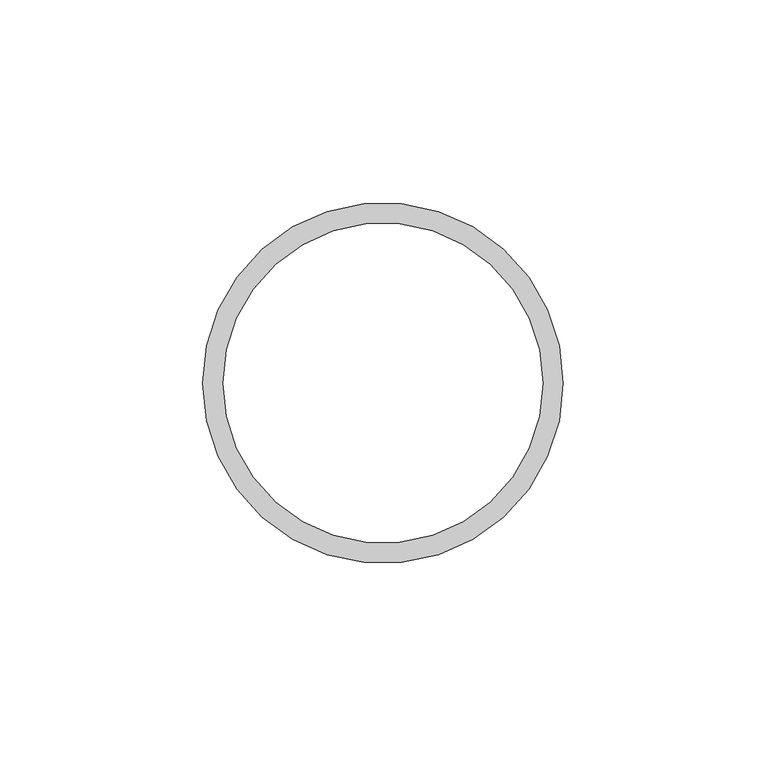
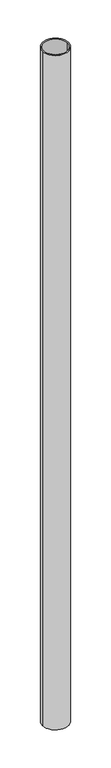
"""IFC4 building model written with IfcOpenShell, lengths in millimetres: column geometry, NLRS_28_SC_TLB_kolom buis_generiek_ISR : ø88.9x5 ."""

from ifc_helpers import new_model, si_unit, point, frame, origin, origin_2d, place, context, project, spatial, circle_curve, trimmed, segment, composite_curve, outline, extrude, source, transform, mapped, element, save


def column_01d08799(model_context):
    return source(origin(), model_context, "Body", "SweptSolid", [
        extrude(outline(composite_curve([segment(trimmed(circle_curve(origin_2d(), 44.45), [point((44.45, 0.0))], [point((-44.45, 0.0))], False, "CARTESIAN"), True, "CONTINUOUS"), segment(trimmed(circle_curve(origin_2d(), 44.45), [point((-44.45, 0.0))], [point((44.45, 0.0))], False, "CARTESIAN"), True, "CONTINUOUS")], self_intersect=False), holes=[composite_curve([segment(trimmed(circle_curve(origin_2d(), 39.45), [point((39.45, 0.0))], [point((-39.45, 0.0))], True, "CARTESIAN"), True, "CONTINUOUS"), segment(trimmed(circle_curve(origin_2d(), 39.45), [point((-39.45, 0.0))], [point((39.45, 0.0))], True, "CARTESIAN"), True, "CONTINUOUS")], self_intersect=False)]), frame((0.0, 0.0, 5050.0), z_axis=(0.0, 0.0, 1.0), x_axis=(1.0, 0.0, 0.0)), (0.0, 0.0, 1.0), 2400.0),
    ])


if __name__ == "__main__":
    model = new_model("IFC4")
    model_context = context("Model", 3, world=origin())
    ifc_project = project(units=[si_unit("LENGTHUNIT", "METRE", prefix="MILLI")], contexts=[model_context])
    site = spatial("IfcSite", under=ifc_project)
    building = spatial("IfcBuilding", under=site)
    placement = place(None, origin())
    column_shape = column_01d08799(model_context)
    element("IfcColumn", 1, ObjectType="NLRS_28_SC_TLB_kolom buis_generiek_ISR : ø88.9x5 ", at=placement, inside=building, context=model_context, shape_type="MappedRepresentation", body=[
        mapped(column_shape, transform((0.0, 0.0, 0.0), x_axis=(1.0, 0.0, 0.0), y_axis=(0.0, 1.0, 0.0), z_axis=(0.0, 0.0, 1.0))),
    ])
    save(model, "model.ifc")
